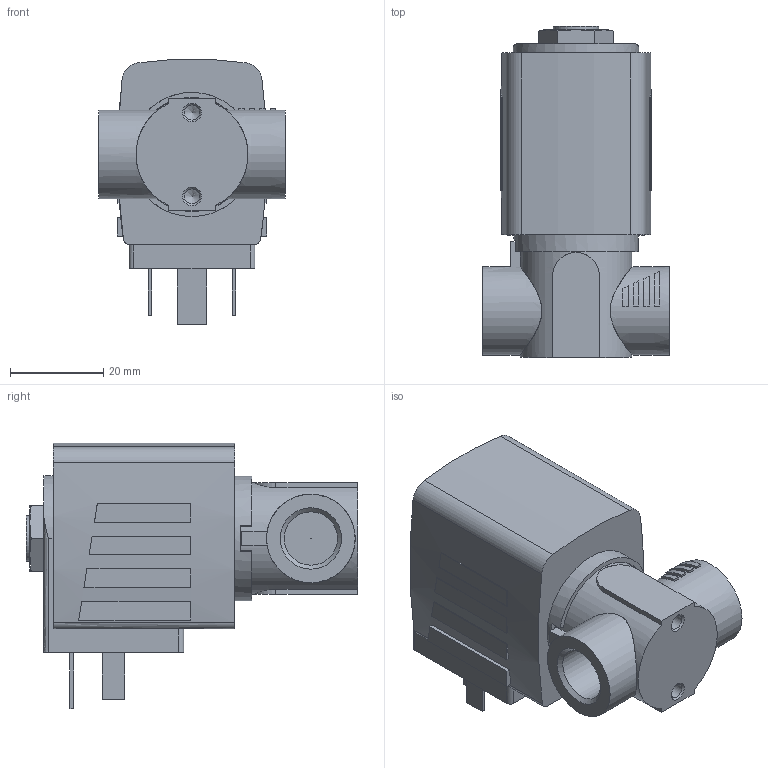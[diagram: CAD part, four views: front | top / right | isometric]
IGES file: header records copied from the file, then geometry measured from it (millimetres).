
Start section: Data from Parasolid IGES Translator 26.0.171, Copyright(c) 2006 Siemens PLM Software. All Rights Reserved.
Global section: file name: 6240-366936-2_2-way_solenoid_valve__pilot-controlled.igs; native system: By Siemens PLM Incorporated; preprocessor: XPlus GENERIC/IGES 26.0.171; author: Noname; organization: Noname; date: 20240510.102306; units: millimetre
Bounding box: 40 x 71 x 56.91 mm (x, y, z)
Surface area: 15030.6 mm2 (no closed solid volume)
Topology: 0 solids, 0 shells, 156 faces, 756 edges, 743 vertices
Faces by surface type: extrusion 109, revolution 47
